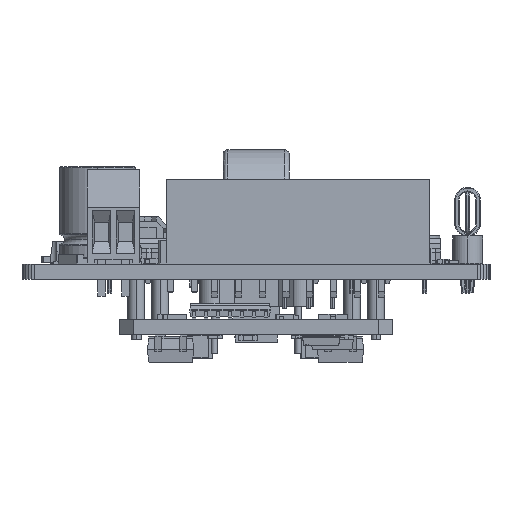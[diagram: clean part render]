
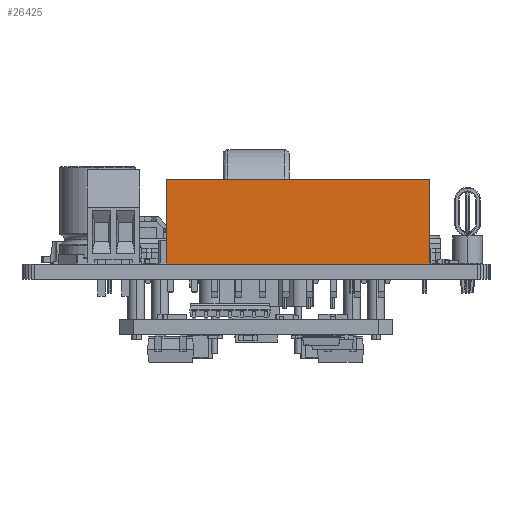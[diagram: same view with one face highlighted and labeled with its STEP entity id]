
A CAD part, left-side view. The second image highlights one B-rep face of the part: STEP entity #26425.
In plain terms, the highlighted planar face has unit normal (-1, 0, 0) as drawn and (0, 1, 0) by its records, which use the part's own axes.
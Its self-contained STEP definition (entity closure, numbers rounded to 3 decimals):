
#22637 = VERTEX_POINT('',#22638);
#22638 = CARTESIAN_POINT('',(-13.97,4.4,0.));
#22644 = EDGE_CURVE('',#22637,#22645,#22647,.T.);
#22645 = VERTEX_POINT('',#22646);
#22646 = CARTESIAN_POINT('',(13.97,4.4,0.));
#22647 = LINE('',#22648,#22649);
#22648 = CARTESIAN_POINT('',(0.,4.4,0.));
#22649 = VECTOR('',#22650,1.);
#22650 = DIRECTION('',(1.,0.,0.));
#26345 = VERTEX_POINT('',#26346);
#26346 = CARTESIAN_POINT('',(13.97,4.4,9.));
#26352 = EDGE_CURVE('',#26345,#26353,#26355,.T.);
#26353 = VERTEX_POINT('',#26354);
#26354 = CARTESIAN_POINT('',(-13.97,4.4,9.));
#26355 = LINE('',#26356,#26357);
#26356 = CARTESIAN_POINT('',(0.,4.4,9.));
#26357 = VECTOR('',#26358,1.);
#26358 = DIRECTION('',(-1.,0.,0.));
#26412 = EDGE_CURVE('',#26353,#22637,#26413,.T.);
#26413 = LINE('',#26414,#26415);
#26414 = CARTESIAN_POINT('',(-13.97,4.4,4.5));
#26415 = VECTOR('',#26416,1.);
#26416 = DIRECTION('',(0.,0.,-1.));
#26425 = ADVANCED_FACE('',(#26426),#26437,.F.);
#26426 = FACE_BOUND('',#26427,.T.);
#26427 = EDGE_LOOP('',(#26428,#26434,#26435,#26436));
#26428 = ORIENTED_EDGE('',*,*,#26429,.T.);
#26429 = EDGE_CURVE('',#26345,#22645,#26430,.T.);
#26430 = LINE('',#26431,#26432);
#26431 = CARTESIAN_POINT('',(13.97,4.4,4.5));
#26432 = VECTOR('',#26433,1.);
#26433 = DIRECTION('',(0.,0.,-1.));
#26434 = ORIENTED_EDGE('',*,*,#22644,.F.);
#26435 = ORIENTED_EDGE('',*,*,#26412,.F.);
#26436 = ORIENTED_EDGE('',*,*,#26352,.F.);
#26437 = PLANE('',#26438);
#26438 = AXIS2_PLACEMENT_3D('',#26439,#26440,#26441);
#26439 = CARTESIAN_POINT('',(0.,4.4,4.5));
#26440 = DIRECTION('',(0.,-1.,0.));
#26441 = DIRECTION('',(0.,0.,-1.));
